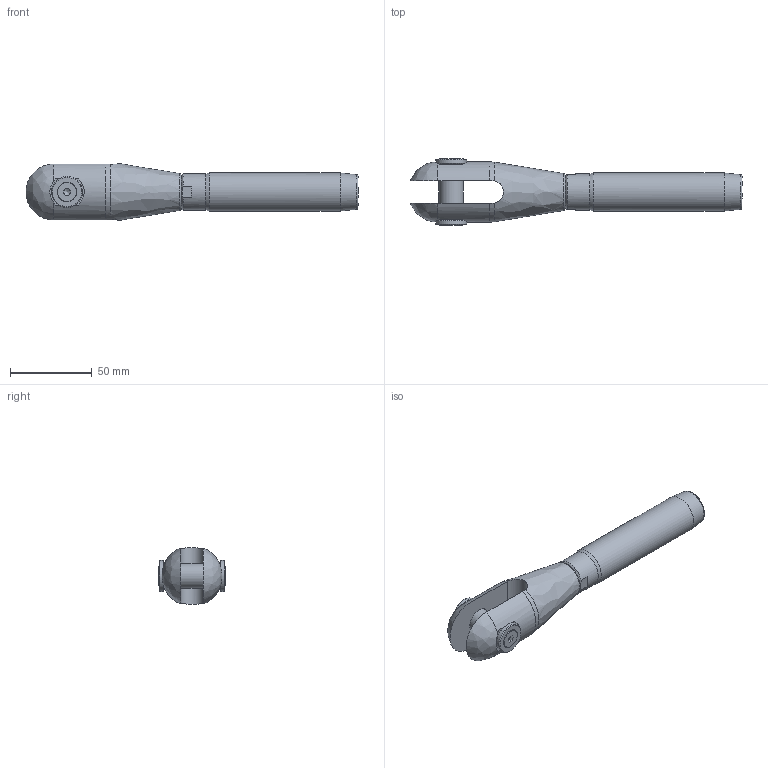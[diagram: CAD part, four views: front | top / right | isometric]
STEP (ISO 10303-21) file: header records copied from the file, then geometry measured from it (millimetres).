
FILE_DESCRIPTION(/* description */ (''),/* implementation_level */ '2;1');
FILE_NAME(/* name */ 'MAC-R 10_1,4418',/* time_stamp */ '2023-05-23T17:52:05+02:00',/* author */ (''),/* organization */ (''),/* preprocessor_version */ 'ST-DEVELOPER v16.5',/* originating_system */ 'Rhino 7.22',/* authorisation */ '');
FILE_SCHEMA (('CONFIG_CONTROL_DESIGN'));
Length unit declared in the file: millimetre
Products named in the file (1): Document
Bounding box: 203.11 x 40.86 x 34.7 mm (x, y, z)
Volume: 102510.1 mm3; surface area: 28693.5 mm2
Topology: 7 solids, 7 shells, 87 faces, 244 edges, 170 vertices
Faces by surface type: plane 36, bspline 27, cylinder 24
Full cylindrical faces by diameter (mm): 4.917 x2, 6 x2, 6.5 x2, 11.34 x2, 13.835 x1, 15 x1, 16 x3, 19 x2, 22.2 x1, 23.3 x1
Entity records: 3455 total; most frequent: CARTESIAN_POINT 1903, ORIENTED_EDGE 478, EDGE_CURVE 239, VERTEX_POINT 170, EDGE_LOOP 99, B_SPLINE_CURVE_WITH_KNOTS 96, ADVANCED_FACE 87, FACE_OUTER_BOUND 87
